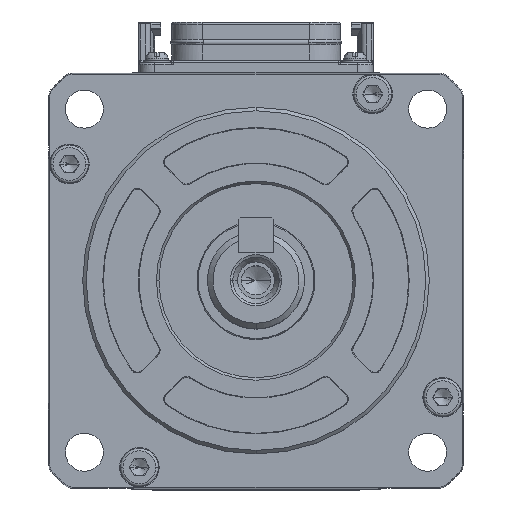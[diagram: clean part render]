
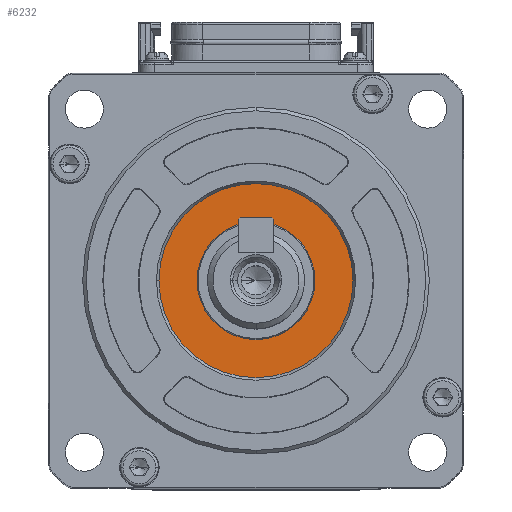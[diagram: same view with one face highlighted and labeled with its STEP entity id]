
A CAD part, top view. The second image highlights one B-rep face of the part: STEP entity #6232.
In plain terms, the highlighted planar face has unit normal (0, 0, 1).
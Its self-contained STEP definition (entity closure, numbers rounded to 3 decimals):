
#3005 = VERTEX_POINT ( 'NONE', #4633 ) ;
#3267 = CIRCLE ( 'NONE', #16721, 14. ) ;
#4362 = CARTESIAN_POINT ( 'NONE',  ( 0., 0., 44.347 ) ) ;
#4633 = CARTESIAN_POINT ( 'NONE',  ( -8.5, 0., 44.347 ) ) ;
#4658 = DIRECTION ( 'NONE',  ( 0., 1., 0. ) ) ;
#4723 = DIRECTION ( 'NONE',  ( 0., 1., 0. ) ) ;
#5399 = CIRCLE ( 'NONE', #89892, 8.5 ) ;
#5535 = CARTESIAN_POINT ( 'NONE',  ( 0., -14., 44.347 ) ) ;
#5816 = ORIENTED_EDGE ( 'NONE', *, *, #28299, .F. ) ;
#6232 = ADVANCED_FACE ( 'NONE', ( #40331, #54379 ), #29655, .T. ) ;
#9531 = VERTEX_POINT ( 'NONE', #45525 ) ;
#13166 = DIRECTION ( 'NONE',  ( 0., 0., 1. ) ) ;
#14946 = VERTEX_POINT ( 'NONE', #83473 ) ;
#15965 = EDGE_LOOP ( 'NONE', ( #5816, #21555 ) ) ;
#16721 = AXIS2_PLACEMENT_3D ( 'NONE', #39713, #32798, #48273 ) ;
#21555 = ORIENTED_EDGE ( 'NONE', *, *, #34453, .F. ) ;
#23322 = EDGE_LOOP ( 'NONE', ( #69478, #83876 ) ) ;
#24396 = AXIS2_PLACEMENT_3D ( 'NONE', #44053, #13166, #43704 ) ;
#28299 = EDGE_CURVE ( 'NONE', #3005, #9531, #35902, .T. ) ;
#29655 = PLANE ( 'NONE',  #82360 ) ;
#31157 = CIRCLE ( 'NONE', #49750, 14. ) ;
#32798 = DIRECTION ( 'NONE',  ( 0., 0., -1. ) ) ;
#34453 = EDGE_CURVE ( 'NONE', #9531, #3005, #5399, .T. ) ;
#35902 = CIRCLE ( 'NONE', #24396, 8.5 ) ;
#39713 = CARTESIAN_POINT ( 'NONE',  ( 0., 0., 44.347 ) ) ;
#40331 = FACE_BOUND ( 'NONE', #15965, .T. ) ;
#43704 = DIRECTION ( 'NONE',  ( 0., 1., 0. ) ) ;
#44053 = CARTESIAN_POINT ( 'NONE',  ( 0., 0., 44.347 ) ) ;
#44126 = DIRECTION ( 'NONE',  ( 0., 0., 1. ) ) ;
#45312 = EDGE_CURVE ( 'NONE', #14946, #63487, #3267, .T. ) ;
#45525 = CARTESIAN_POINT ( 'NONE',  ( 8.5, 0., 44.347 ) ) ;
#48273 = DIRECTION ( 'NONE',  ( 0., 1., 0. ) ) ;
#49750 = AXIS2_PLACEMENT_3D ( 'NONE', #4362, #56854, #4658 ) ;
#54379 = FACE_OUTER_BOUND ( 'NONE', #23322, .T. ) ;
#56854 = DIRECTION ( 'NONE',  ( 0., 0., -1. ) ) ;
#59841 = DIRECTION ( 'NONE',  ( 0., 1., 0. ) ) ;
#62482 = EDGE_CURVE ( 'NONE', #63487, #14946, #31157, .T. ) ;
#63487 = VERTEX_POINT ( 'NONE', #5535 ) ;
#69478 = ORIENTED_EDGE ( 'NONE', *, *, #45312, .F. ) ;
#80198 = CARTESIAN_POINT ( 'NONE',  ( 0., 0., 44.347 ) ) ;
#82360 = AXIS2_PLACEMENT_3D ( 'NONE', #83161, #44126, #59841 ) ;
#83161 = CARTESIAN_POINT ( 'NONE',  ( 0., 0., 44.347 ) ) ;
#83473 = CARTESIAN_POINT ( 'NONE',  ( 0., 14., 44.347 ) ) ;
#83876 = ORIENTED_EDGE ( 'NONE', *, *, #62482, .F. ) ;
#89892 = AXIS2_PLACEMENT_3D ( 'NONE', #80198, #94375, #4723 ) ;
#94375 = DIRECTION ( 'NONE',  ( 0., 0., 1. ) ) ;
